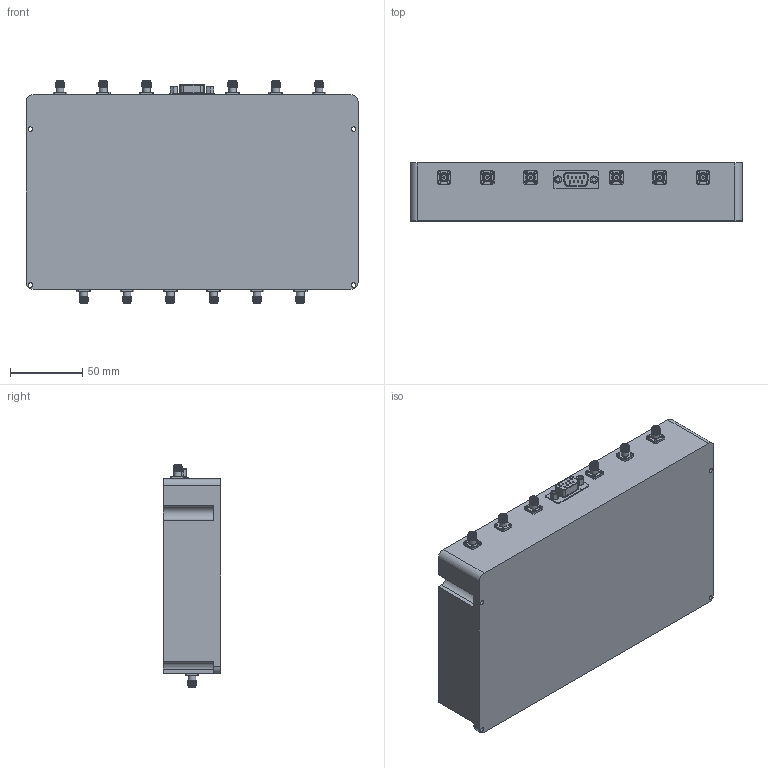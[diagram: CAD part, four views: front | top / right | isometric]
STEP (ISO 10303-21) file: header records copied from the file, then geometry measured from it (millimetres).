
FILE_DESCRIPTION (( 'STEP AP214' ), '1' );
FILE_NAME ('6X2SFB-2G6GBP-2D9G6G-SFF.STEP', '2026-07-31T17:29:26', ( '' ), ( '' ), 'SwSTEP 2.0', 'SolidWorks 2025', '' );
FILE_SCHEMA (( 'AUTOMOTIVE_DESIGN' ));
Length unit declared in the file: inch
Products named in the file (1): 6X2SFB-2G6GBP-2D9G6G-SFF
Bounding box: 230 x 40.13 x 153.9 mm (x, y, z)
Volume: 1239649.1 mm3; surface area: 128629.1 mm2
Topology: 17 solids, 17 shells, 1501 faces, 4929 edges, 3755 vertices
Faces by surface type: plane 577, cylinder 507, torus 292, bspline 71, cone 54
Full cylindrical faces by diameter (mm): 0.381 x12, 0.635 x12, 1.016 x12, 1.143 x9, 1.219 x9, 1.27 x12, 1.397 x5, 1.473 x9, 1.702 x48, 2.261 x4, 2.845 x8, 3.048 x2, 3.2 x4, 3.302 x12, 4.191 x24, 4.597 x12, 5.283 x24
Entity records: 84260 total; most frequent: CARTESIAN_POINT 23492, ORIENTED_EDGE 8726, DIRECTION 7278, EDGE_CURVE 4363, VERTEX_POINT 3713, LINE 2636, VECTOR 2636, EDGE_LOOP 2426
